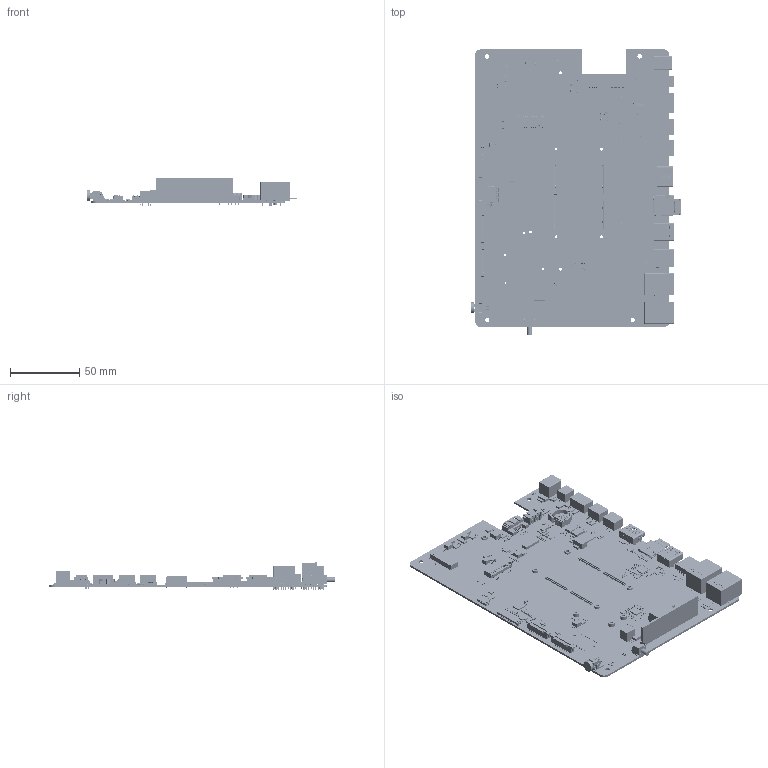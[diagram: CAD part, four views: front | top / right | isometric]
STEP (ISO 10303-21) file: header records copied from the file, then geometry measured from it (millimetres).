
FILE_DESCRIPTION((''),'2;1');
FILE_NAME('CM3I_PCBA','2024-10-30T09:57:11',('admin'),(''),'CREO PARAMETRIC BY PTC INC, 2024273','CREO PARAMETRIC BY PTC INC, 2024273','');
FILE_SCHEMA(('CONFIG_CONTROL_DESIGN','SHAPE_APPEARANCE_LAYERS_GROUPS'));
Products named in the file (1): CM3I_PCBA
Bounding box: 152.01 x 205.87 x 20.35 mm (x, y, z)
Volume: 66582.7 mm3; surface area: 89041.8 mm2
Topology: 1193 solids, 1221 shells, 32840 faces, 83365 edges, 51653 vertices
Faces by surface type: plane 21081, cylinder 9176, sphere 2118, torus 190, extrusion 163, bspline 58, cone 54
Entity records: 1410286 total; most frequent: CARTESIAN_POINT 184259, ORIENTED_EDGE 163724, DIRECTION 162523, PRESENTATION_STYLE_ASSIGNMENT 108623, STYLED_ITEM 83178, CURVE_STYLE 81958, EDGE_CURVE 81862, VECTOR 62163
